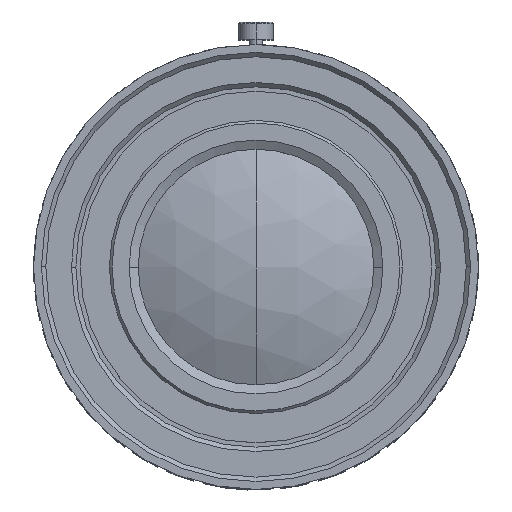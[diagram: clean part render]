
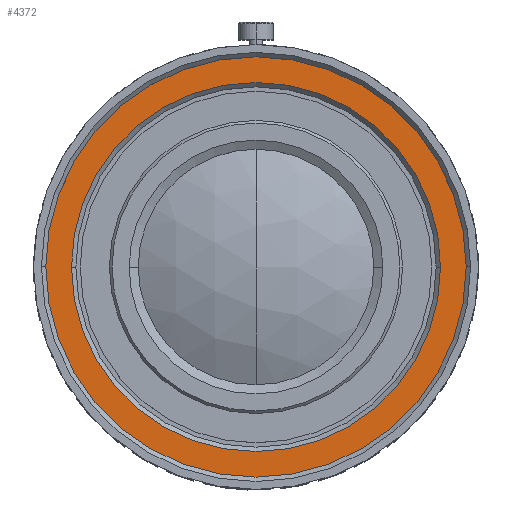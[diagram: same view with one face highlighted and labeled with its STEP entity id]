
A CAD part, top view. The second image highlights one B-rep face of the part: STEP entity #4372.
In plain terms, the highlighted planar face has unit normal (0, 0, 1).
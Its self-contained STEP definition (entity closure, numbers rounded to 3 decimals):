
#39 = CARTESIAN_POINT ( 'NONE',  ( 0., 0., 64.32 ) ) ;
#259 = AXIS2_PLACEMENT_3D ( 'NONE', #3205, #9661, #4137 ) ;
#363 = CARTESIAN_POINT ( 'NONE',  ( 0., 24.6, 64.32 ) ) ;
#406 = DIRECTION ( 'NONE',  ( 0., 0., 1. ) ) ;
#438 = CIRCLE ( 'NONE', #5571, 21.15 ) ;
#559 = VERTEX_POINT ( 'NONE', #4338 ) ;
#994 = DIRECTION ( 'NONE',  ( -1., 0., 0. ) ) ;
#999 = EDGE_LOOP ( 'NONE', ( #3999, #4026 ) ) ;
#1211 = ORIENTED_EDGE ( 'NONE', *, *, #10288, .F. ) ;
#1293 = VERTEX_POINT ( 'NONE', #3811 ) ;
#1301 = EDGE_CURVE ( 'NONE', #8587, #1293, #5459, .T. ) ;
#2439 = CARTESIAN_POINT ( 'NONE',  ( -21.15, 0., 64.32 ) ) ;
#3205 = CARTESIAN_POINT ( 'NONE',  ( 0., 0., 64.32 ) ) ;
#3419 = EDGE_LOOP ( 'NONE', ( #10698, #1211 ) ) ;
#3811 = CARTESIAN_POINT ( 'NONE',  ( 21.15, 0., 64.32 ) ) ;
#3999 = ORIENTED_EDGE ( 'NONE', *, *, #5493, .T. ) ;
#4026 = ORIENTED_EDGE ( 'NONE', *, *, #1301, .T. ) ;
#4137 = DIRECTION ( 'NONE',  ( -1., 0., 0. ) ) ;
#4224 = CARTESIAN_POINT ( 'NONE',  ( 0., 0., 64.32 ) ) ;
#4338 = CARTESIAN_POINT ( 'NONE',  ( -24.6, 0., 64.32 ) ) ;
#4372 = ADVANCED_FACE ( 'NONE', ( #6181, #8663 ), #6023, .T. ) ;
#4773 = CARTESIAN_POINT ( 'NONE',  ( 0., 0., 64.32 ) ) ;
#5154 = DIRECTION ( 'NONE',  ( -1., 0., 0. ) ) ;
#5459 = CIRCLE ( 'NONE', #10495, 21.15 ) ;
#5493 = EDGE_CURVE ( 'NONE', #1293, #8587, #438, .T. ) ;
#5571 = AXIS2_PLACEMENT_3D ( 'NONE', #39, #6619, #994 ) ;
#5731 = DIRECTION ( 'NONE',  ( -1., 0., 0. ) ) ;
#5805 = EDGE_CURVE ( 'NONE', #559, #9260, #9867, .T. ) ;
#6023 = PLANE ( 'NONE',  #10772 ) ;
#6181 = FACE_BOUND ( 'NONE', #999, .T. ) ;
#6619 = DIRECTION ( 'NONE',  ( 0., 0., -1. ) ) ;
#6620 = CARTESIAN_POINT ( 'NONE',  ( 24.6, 0., 64.32 ) ) ;
#6981 = DIRECTION ( 'NONE',  ( 1., 0., 0. ) ) ;
#8587 = VERTEX_POINT ( 'NONE', #2439 ) ;
#8663 = FACE_OUTER_BOUND ( 'NONE', #3419, .T. ) ;
#9260 = VERTEX_POINT ( 'NONE', #6620 ) ;
#9661 = DIRECTION ( 'NONE',  ( 0., 0., -1. ) ) ;
#9867 = CIRCLE ( 'NONE', #10849, 24.6 ) ;
#10288 = EDGE_CURVE ( 'NONE', #9260, #559, #10511, .T. ) ;
#10495 = AXIS2_PLACEMENT_3D ( 'NONE', #4773, #11183, #5731 ) ;
#10511 = CIRCLE ( 'NONE', #259, 24.6 ) ;
#10661 = DIRECTION ( 'NONE',  ( 0., 0., -1. ) ) ;
#10698 = ORIENTED_EDGE ( 'NONE', *, *, #5805, .F. ) ;
#10772 = AXIS2_PLACEMENT_3D ( 'NONE', #363, #406, #6981 ) ;
#10849 = AXIS2_PLACEMENT_3D ( 'NONE', #4224, #10661, #5154 ) ;
#11183 = DIRECTION ( 'NONE',  ( 0., 0., -1. ) ) ;
